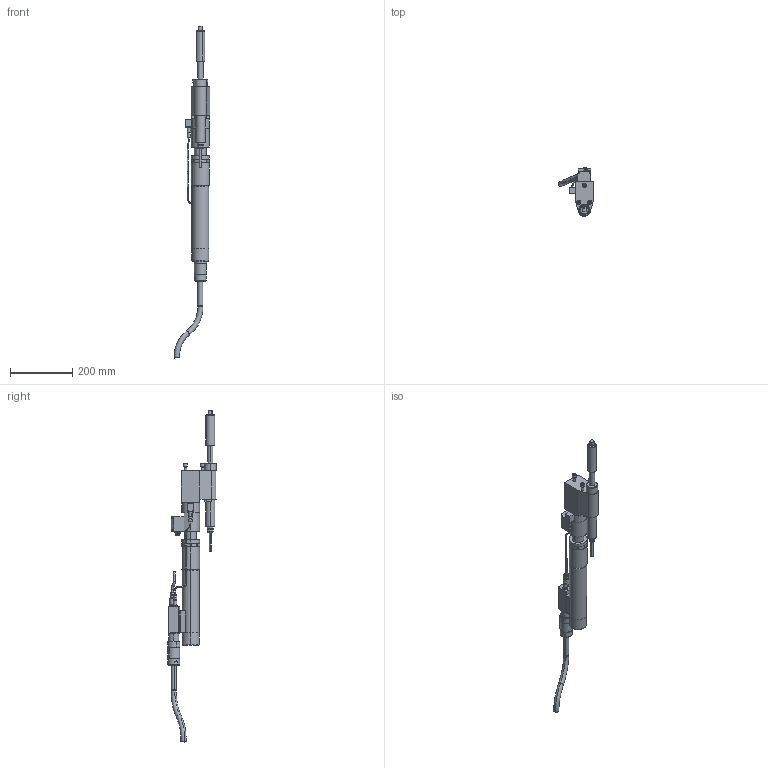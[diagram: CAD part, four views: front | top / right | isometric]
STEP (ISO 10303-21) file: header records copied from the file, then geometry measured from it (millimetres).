
FILE_DESCRIPTION(('CATIA V5 STEP Exchange'),'2;1');
FILE_NAME('C:\pro\7920192_ECR205_DWR63_W2_AOD250-63_AllCATPart.stp','2008-11-10T09:30:36+00:00',('none'),('none'),'CATIA Version 5 Release 17 (IN-10)','CATIA V5 STEP AP203','none');
FILE_SCHEMA(('CONFIG_CONTROL_DESIGN'));
Length unit declared in the file: millimetre
Products named in the file (1): 7920192_ECR205_DWR63_W2_AOD250-63_AllCATPart
Bounding box: 113.82 x 157.13 x 1067.06 mm (x, y, z)
Volume: 2317654.5 mm3; surface area: 255961.9 mm2
Topology: 20 solids, 20 shells, 568 faces, 1302 edges, 817 vertices
Faces by surface type: plane 268, cylinder 194, cone 62, torus 40, bspline 4
Entity records: 15336 total; most frequent: CARTESIAN_POINT 3298, ORIENTED_EDGE 2584, DIRECTION 2084, EDGE_CURVE 1292, AXIS2_PLACEMENT_3D 991, VERTEX_POINT 817, VECTOR 674, LINE 674
